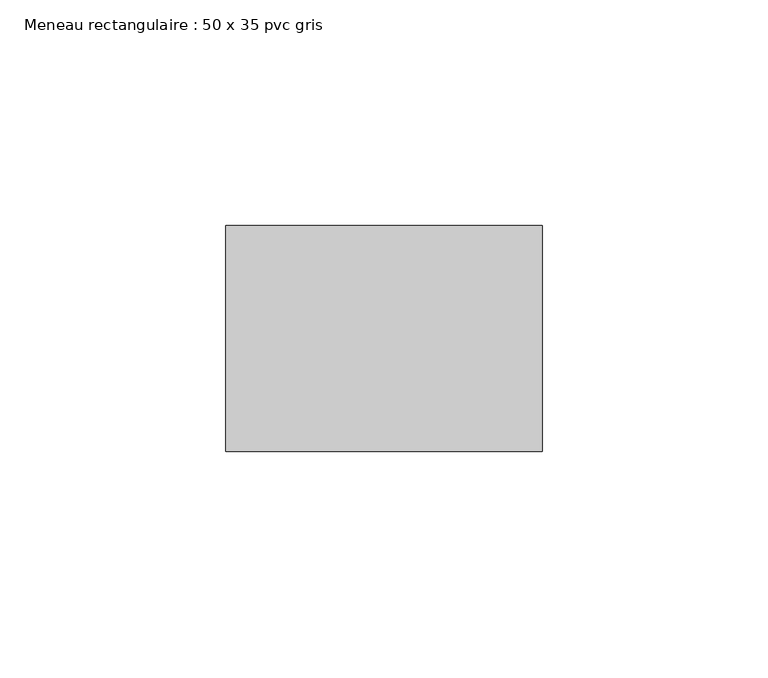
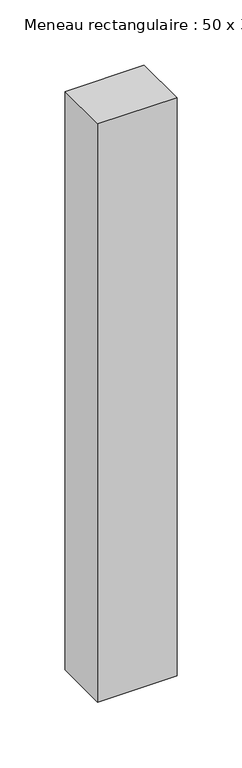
"""IFC4 building model written with IfcOpenShell, lengths in millimetres: member geometry, Meneau rectangulaire : 50 x 35 pvc gris."""

import ifcopenshell
import ifcopenshell.guid

model = None  # the IFC model being written
_history = None  # IfcOwnerHistory: only IFC2X3 demands one
_inside = {}  # id of a spatial element -> (the spatial element, [elements in it])
_under = {}  # id of a project, library or spatial element -> (it, [spatial elements below it])
_declared = {}  # id of a project -> (the project, [libraries it declares])
_typed = {}  # id of a type object -> (the type object, [elements of that type])
_made_of = {}  # id of a material, layer set ... -> (it, [elements and type objects made of it])


def new_model(schema):
    """Start an empty IFC model of exactly this schema.

    Asked for "IFC4X3", IfcOpenShell would pick the latest addendum, in which some entities
    have other attributes; the version numbers below select the first issue.
    IFC2X3 requires an IfcOwnerHistory on every rooted entity: one is made here for all.
    """
    global model, _history
    if schema == "IFC4X3":
        model = ifcopenshell.file(schema_version=(4, 3, 0, 0))
    else:
        model = ifcopenshell.file(schema=schema)
    _inside.clear()
    _under.clear()
    _declared.clear()
    _typed.clear()
    _made_of.clear()
    _history = None
    if model.schema == "IFC2X3":
        org = make("IfcOrganization", Name="unknown")
        user = make(
            "IfcPersonAndOrganization",
            ThePerson=make("IfcPerson", FamilyName="unknown"),
            TheOrganization=org,
        )
        app = make(
            "IfcApplication",
            ApplicationDeveloper=org,
            Version="unknown",
            ApplicationFullName="unknown",
            ApplicationIdentifier="unknown",
        )
        _history = make(
            "IfcOwnerHistory",
            OwningUser=user,
            OwningApplication=app,
            ChangeAction="ADDED",
            CreationDate=0,
        )
    return model


def make(cls, **values):
    """One entity of the class cls with the attributes given. An attribute that is None is left unset."""
    return model.create_entity(
        cls, **{name: value for name, value in values.items() if value is not None}
    )


def rooted(cls, **values):
    """An entity with a GlobalId (a new one), such as an element, a storey or a relation."""
    return make(cls, GlobalId=ifcopenshell.guid.new(), OwnerHistory=_history, **values)


def si_unit(unit_type, name, prefix=None):
    """IfcSIUnit, for example si_unit("LENGTHUNIT", "METRE", prefix="MILLI")."""
    return make("IfcSIUnit", UnitType=unit_type, Prefix=prefix, Name=name)


def assignment(units):
    """IfcUnitAssignment: the units of a project."""
    return None if units is None else make("IfcUnitAssignment", Units=units)


def point(xyz):
    """IfcCartesianPoint."""
    return None if xyz is None else make("IfcCartesianPoint", Coordinates=xyz)


def direction(xyz):
    """IfcDirection."""
    return None if xyz is None else make("IfcDirection", DirectionRatios=xyz)


def frame(location, z_axis=None, x_axis=None):
    """IfcAxis2Placement3D, a coordinate frame: its origin and axes. An axis left out is left unset."""
    return make(
        "IfcAxis2Placement3D",
        Location=point(location),
        Axis=direction(z_axis),
        RefDirection=direction(x_axis),
    )


def origin():
    """The frame at (0, 0, 0) with its axes left unset."""
    return frame((0.0, 0.0, 0.0))


def place(relative_to, where):
    """IfcLocalPlacement: puts the frame where relative to a parent placement (None: the world)."""
    return make(
        "IfcLocalPlacement", PlacementRelTo=relative_to, RelativePlacement=where
    )


def context(
    kind, dimensions, precision=None, world=None, true_north=None, identifier=None
):
    """IfcGeometricRepresentationContext, for example the 3D "Model" context."""
    return make(
        "IfcGeometricRepresentationContext",
        ContextIdentifier=identifier,
        ContextType=kind,
        CoordinateSpaceDimension=dimensions,
        Precision=precision,
        WorldCoordinateSystem=world,
        TrueNorth=true_north,
    )


def project(units=None, contexts=None):
    """IfcProject with its units and contexts."""
    return rooted(
        "IfcProject",
        Name="project",
        RepresentationContexts=contexts,
        UnitsInContext=assignment(units),
    )


def spatial(cls, under=None, at=None, **own):
    """A site, building, storey or space (cls), placed at a placement, below another one or the project."""
    s = rooted(cls, ObjectPlacement=at, **own)
    if under is not None:
        _under.setdefault(under.id(), (under, []))[1].append(s)
    return s


def polyline(points):
    """IfcPolyline through the points."""
    return make("IfcPolyline", Points=[point(p) for p in points])


def outline(outer, holes=None, kind="AREA"):
    """IfcArbitraryClosedProfileDef: a profile drawn as a closed curve; with holes, ...WithVoids."""
    if holes is None:
        return make("IfcArbitraryClosedProfileDef", ProfileType=kind, OuterCurve=outer)
    return make(
        "IfcArbitraryProfileDefWithVoids",
        ProfileType=kind,
        OuterCurve=outer,
        InnerCurves=holes,
    )


def extrude(swept, where, along, depth):
    """IfcExtrudedAreaSolid: the profile swept, set in the frame where, extruded along a direction by depth."""
    return make(
        "IfcExtrudedAreaSolid",
        SweptArea=swept,
        Position=where,
        ExtrudedDirection=direction(along),
        Depth=depth,
    )


def shape(context_of_items, identifier, shape_type, items):
    """IfcShapeRepresentation: the items that make up one representation, for example the "Body"."""
    return make(
        "IfcShapeRepresentation",
        ContextOfItems=context_of_items,
        RepresentationIdentifier=identifier,
        RepresentationType=shape_type,
        Items=items,
    )


def source(mapping_origin, context_of_items, identifier, shape_type, items):
    """IfcRepresentationMap: a shape defined once, which mapped items show again and again."""
    return make(
        "IfcRepresentationMap",
        MappingOrigin=mapping_origin,
        MappedRepresentation=shape(context_of_items, identifier, shape_type, items),
    )


def transform(
    local_origin,
    x_axis=None,
    y_axis=None,
    z_axis=None,
    scale=None,
    scale2=None,
    scale3=None,
    uniform=True,
):
    """IfcCartesianTransformationOperator3D, or its non-uniform kind. x_axis, y_axis, z_axis: its Axis1, 2, 3."""
    if uniform:
        return make(
            "IfcCartesianTransformationOperator3D",
            Axis1=direction(x_axis),
            Axis2=direction(y_axis),
            LocalOrigin=point(local_origin),
            Scale=scale,
            Axis3=direction(z_axis),
        )
    return make(
        "IfcCartesianTransformationOperator3DnonUniform",
        Axis1=direction(x_axis),
        Axis2=direction(y_axis),
        LocalOrigin=point(local_origin),
        Scale=scale,
        Axis3=direction(z_axis),
        Scale2=scale2,
        Scale3=scale3,
    )


def mapped(mapping_source, mapping_target):
    """IfcMappedItem: shows the shape of a source again, moved by a transform."""
    return make(
        "IfcMappedItem", MappingSource=mapping_source, MappingTarget=mapping_target
    )


def made_of(thing, what):
    """Note that an element or type object is made of a material, layer set ...; save() writes the relation."""
    if what is not None:
        _made_of.setdefault(what.id(), (what, []))[1].append(thing)
    return thing


def element(
    cls,
    number,
    at=None,
    inside=None,
    cuts=None,
    type_object=None,
    material=None,
    context=None,
    identifier="Body",
    shape_type=None,
    held_by="IfcProductDefinitionShape",
    body=None,
    shapes=None,
    **own,
):
    """One element of the class cls, such as IfcWall. Its Tag is "e" and its number.

    at: its placement. inside: the storey or other place that contains it. cuts: it is an
    opening in that element (IfcRelVoidsElement). A single representation is given by context,
    identifier, shape_type and body (its items); several are given by shapes. held_by: the class
    of the entity that holds the representations. save() writes the other relations.
    """
    e = rooted(cls, Tag="e%d" % number, ObjectPlacement=at, **own)
    if body is not None:
        shapes = [shape(context, identifier, shape_type, body)]
    if shapes is not None:
        e.Representation = make(held_by, Representations=shapes)
    if inside is not None:
        _inside.setdefault(inside.id(), (inside, []))[1].append(e)
    if cuts is not None:
        rooted(
            "IfcRelVoidsElement", RelatingBuildingElement=cuts, RelatedOpeningElement=e
        )
    if type_object is not None:
        _typed.setdefault(type_object.id(), (type_object, []))[1].append(e)
    return made_of(e, material)


def aggregate(whole, parts):
    """IfcRelAggregates: a whole, such as a stair, and the parts it consists of."""
    return rooted("IfcRelAggregates", RelatingObject=whole, RelatedObjects=parts)


def save(model, path):
    """Write the relations noted so far, then the file.

    IfcRelAggregates (storeys below a building ...), IfcRelContainedInSpatialStructure (elements
    in a storey), IfcRelDefinesByType, IfcRelAssociatesMaterial and IfcRelDeclares: one each for
    every whole, place, type object, material and project.
    """
    for whole, parts in _under.values():
        aggregate(whole, parts)
    for where, things in _inside.values():
        rooted(
            "IfcRelContainedInSpatialStructure",
            RelatedElements=things,
            RelatingStructure=where,
        )
    for kind, things in _typed.values():
        rooted("IfcRelDefinesByType", RelatedObjects=things, RelatingType=kind)
    for what, things in _made_of.values():
        rooted("IfcRelAssociatesMaterial", RelatedObjects=things, RelatingMaterial=what)
    for by, libraries in _declared.values():
        rooted("IfcRelDeclares", RelatingContext=by, RelatedDefinitions=libraries)
    model.write(path)


def meneau_rectangulaire_50_x_35_pvc_gris_81b8ebce(model_context):
    return source(origin(), model_context, "Body", "SweptSolid", [
        extrude(outline(polyline([(0.0, 0.0), (0.0, -50.0), (-70.0, -50.0), (-70.0, 0.0), (0.0, 0.0)])), frame((0.0, 0.0, -541.0), z_axis=(0.0, 0.0, 1.0), x_axis=(1.0, 0.0, 0.0)), (0.0, 0.0, 1.0), 541.0),
    ])


if __name__ == "__main__":
    model = new_model("IFC4")
    model_context = context("Model", 3, world=origin())
    ifc_project = project(units=[si_unit("LENGTHUNIT", "METRE", prefix="MILLI")], contexts=[model_context])
    site = spatial("IfcSite", under=ifc_project)
    building = spatial("IfcBuilding", under=site)
    placement = place(None, origin())
    meneau_rectangulaire_50_x_35_pvc_gris_shape = meneau_rectangulaire_50_x_35_pvc_gris_81b8ebce(model_context)
    element("IfcMember", 1, ObjectType="Meneau rectangulaire : 50 x 35 pvc gris", at=placement, inside=building, context=model_context, shape_type="MappedRepresentation", body=[
        mapped(meneau_rectangulaire_50_x_35_pvc_gris_shape, transform((0.0, 0.0, 0.0), x_axis=(1.0, 0.0, 0.0), y_axis=(0.0, 1.0, 0.0), z_axis=(0.0, 0.0, 1.0))),
    ])
    save(model, "model.ifc")
